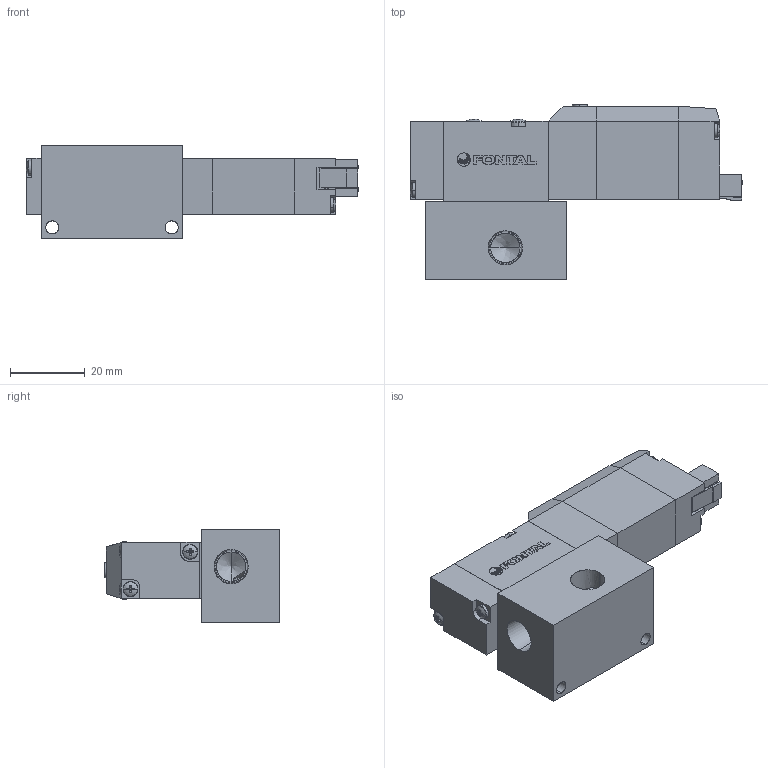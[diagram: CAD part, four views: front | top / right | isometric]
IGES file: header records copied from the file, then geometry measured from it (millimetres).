
Start section: SolidWorks IGES file using analytic representation for surfaces
Global section: file name: D:\Custom\3D繪製\PC\PC5\PCS245#-01-#-SP-#.IGS,1; native system: 5HSolidWorks 2014; preprocessor: SolidWorks 2014; author: Chieh_Lu; date: 150729.232401; units: millimetre
Bounding box: 89.07 x 47 x 25 mm (x, y, z)
Surface area: 19058.9 mm2 (no closed solid volume)
Topology: 0 solids, 0 shells, 548 faces, 5056 edges, 5030 vertices
Faces by surface type: bspline 351, revolution 197
